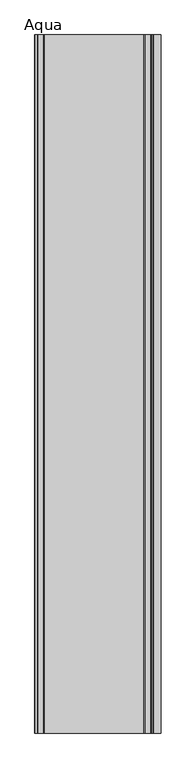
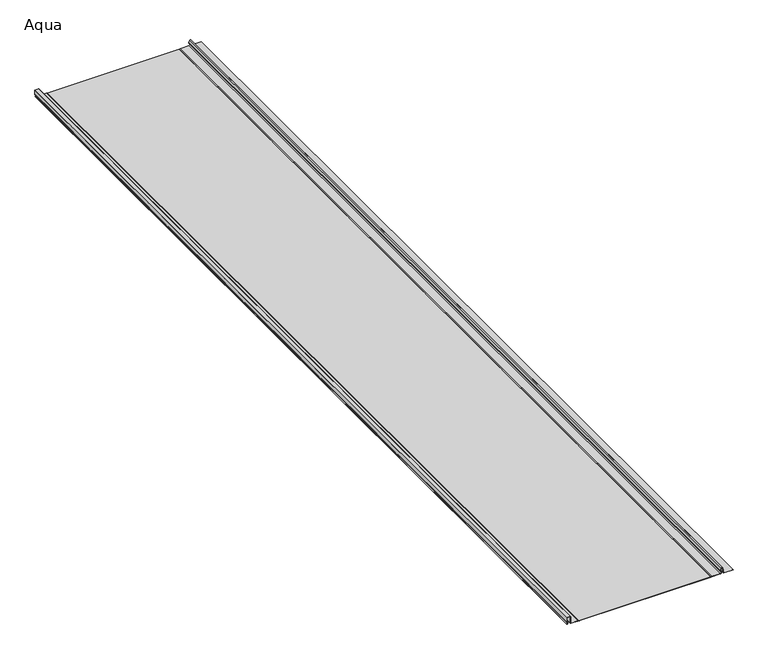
"""IFC4 building model written with IfcOpenShell, lengths in millimetres: proxy geometry, AQUAPLAST - Panel Dachowy i Elewacyjny Aqua : Aqua."""

from ifc_helpers import new_model, si_unit, point, frame, frame_2d, origin, origin_with_axes, place, context, project, spatial, polyline, circle_curve, trimmed, segment, composite_curve, outline, extrude, source, transform, mapped, element, save


def aqua_579f6fc6(model_context):
    return source(origin(), model_context, "Body", "SweptSolid", [
        extrude(outline(composite_curve([segment(polyline([(0.8, 270.9), (0.8, 240.520912)]), True, "CONTINUOUS"), segment(trimmed(circle_curve(frame_2d((1.4640676, 240.520912)), 0.6640676), [point((0.8, 240.520912))], [point((1.3501315, 239.8666916))], True, "CARTESIAN"), True, "CONTINUOUS"), segment(polyline([(1.3501315, 239.8666916), (18.7653554, 236.8337349)]), True, "CONTINUOUS"), segment(trimmed(circle_curve(frame_2d((18.1818617, 234.1906389)), 2.7067363), [point((18.7653554, 236.8337349))], [point((19.5352298, 231.8465366))], False, "CARTESIAN"), True, "CONTINUOUS"), segment(polyline([(19.5352298, 231.8465366), (12.1941629, 228.8862764)]), True, "CONTINUOUS"), segment(trimmed(circle_curve(frame_2d((11.2676679, 231.1838657)), 2.4773594), [point((12.1941629, 228.8862764))], [point((9.0024093, 230.1809133))], False, "CARTESIAN"), True, "CONTINUOUS"), segment(trimmed(circle_curve(frame_2d((5.4667311, 228.6154775)), 3.8667311), [point((9.0024093, 230.1809133))], [point((1.6, 228.6154775))], True, "CARTESIAN"), True, "CONTINUOUS"), segment(polyline([(1.6, 228.6154775), (1.6, 201.7000503), (0.8, 198.2000503), (0.0, 198.2000503), (0.8, 201.7000503), (0.8, 228.4563021)]), True, "CONTINUOUS"), segment(trimmed(circle_curve(frame_2d((5.5014361, 228.4563021)), 4.7014361), [point((0.8, 228.4563021))], [point((9.7513874, 230.4666293))], False, "CARTESIAN"), True, "CONTINUOUS"), segment(trimmed(circle_curve(frame_2d((11.2676679, 231.1838657)), 1.6773594), [point((9.7513874, 230.4666293))], [point((11.8934079, 229.6275932))], True, "CARTESIAN"), True, "CONTINUOUS"), segment(polyline([(11.8934079, 229.6275932), (19.1352298, 232.5393569)]), True, "CONTINUOUS"), segment(trimmed(circle_curve(frame_2d((18.1818617, 234.1906389)), 1.9067363), [point((19.1352298, 232.5393569))], [point((18.4803326, 236.0738697))], True, "CARTESIAN"), True, "CONTINUOUS"), segment(polyline([(18.4803326, 236.0738697), (0.6241817, 238.9038691)]), True, "CONTINUOUS"), segment(trimmed(circle_curve(frame_2d((0.7400208, 239.6347673)), 0.7400208), [point((0.6241817, 238.9038691))], [point((0.0, 239.6347673))], False, "CARTESIAN"), True, "CONTINUOUS"), segment(polyline([(0.0, 239.6347673), (0.0, 270.9), (0.8, 270.9)]), True, "CONTINUOUS")], self_intersect=False)), frame((0.0, 0.0, 0.0), z_axis=(0.0, 1.0, 0.0), x_axis=(0.0, 0.0, 1.0)), (0.0, 0.0, 1.0), 3013.0),
        extrude(outline(composite_curve([segment(polyline([(1.6, -237.5), (1.6, -260.6)]), True, "CONTINUOUS"), segment(trimmed(circle_curve(frame_2d((2.1, -260.6)), 0.5), [point((1.6, -260.6))], [point((2.1, -261.1))], True, "CARTESIAN"), True, "CONTINUOUS"), segment(polyline([(2.1, -261.1), (24.5, -261.1)]), True, "CONTINUOUS"), segment(trimmed(circle_curve(frame_2d((24.5, -261.6)), 0.5), [point((24.5, -261.1))], [point((25.0, -261.6))], False, "CARTESIAN"), True, "CONTINUOUS"), segment(polyline([(25.0, -261.6), (25.0, -273.6)]), True, "CONTINUOUS"), segment(trimmed(circle_curve(frame_2d((24.5, -273.6)), 0.5), [point((25.0, -273.6))], [point((24.5, -274.1))], False, "CARTESIAN"), True, "CONTINUOUS"), segment(polyline([(24.5, -274.1), (8.8039223, -274.1)]), True, "CONTINUOUS"), segment(trimmed(circle_curve(frame_2d((8.8039223, -273.4250457)), 0.6749543), [point((8.8039223, -274.1))], [point((8.1289934, -273.4191923))], False, "CARTESIAN"), True, "CONTINUOUS"), segment(trimmed(circle_curve(frame_2d((5.3847863, -273.4191923)), 2.7442071), [point((8.1289934, -273.4191923))], [point((2.6405793, -273.4191923))], True, "CARTESIAN"), True, "CONTINUOUS"), segment(polyline([(2.6405793, -273.4191923), (1.8403383, -273.4191923)]), True, "CONTINUOUS"), segment(trimmed(circle_curve(frame_2d((5.4137846, -273.4191923)), 3.5734462), [point((1.8403383, -273.4191923))], [point((8.9478642, -272.8902321))], False, "CARTESIAN"), True, "CONTINUOUS"), segment(trimmed(circle_curve(frame_2d((9.7850119, -272.4539484)), 0.9440125), [point((8.9478642, -272.8902321))], [point((9.7850119, -273.397961))], True, "CARTESIAN"), True, "CONTINUOUS"), segment(polyline([(9.7850119, -273.397961), (23.6993591, -273.397961)]), True, "CONTINUOUS"), segment(trimmed(circle_curve(frame_2d((23.6993591, -272.8966773)), 0.5012837), [point((23.6993591, -273.397961))], [point((24.2006428, -272.8966773))], True, "CARTESIAN"), True, "CONTINUOUS"), segment(polyline([(24.2006428, -272.8966773), (24.2006428, -262.4001579)]), True, "CONTINUOUS"), segment(trimmed(circle_curve(frame_2d((23.7003195, -262.4001579)), 0.5003233), [point((24.2006428, -262.4001579))], [point((23.7003195, -261.8998346))], True, "CARTESIAN"), True, "CONTINUOUS"), segment(polyline([(23.7003195, -261.8998346), (1.2999699, -261.8998346)]), True, "CONTINUOUS"), segment(trimmed(circle_curve(frame_2d((1.2999699, -261.3999248)), 0.4999098), [point((1.2999699, -261.8998346))], [point((0.8000601, -261.3999248))], False, "CARTESIAN"), True, "CONTINUOUS"), segment(polyline([(0.8000601, -261.3999248), (0.8000601, -237.5), (0.0, -234.0), (0.8, -234.0), (1.6, -237.5)]), True, "CONTINUOUS")], self_intersect=False)), frame((0.0, 0.0, 0.0), z_axis=(0.0, 1.0, 0.0), x_axis=(0.0, 0.0, 1.0)), (0.0, 0.0, 1.0), 3013.0),
        extrude(outline(polyline([(-234.0, 3013.0), (198.2000503, 3013.0), (198.2000503, 0.0), (-234.0, 0.0), (-234.0, 3013.0)])), origin_with_axes(), (0.0, 0.0, 1.0), 0.8),
    ])


if __name__ == "__main__":
    model = new_model("IFC4")
    model_context = context("Model", 3, world=origin())
    ifc_project = project(units=[si_unit("LENGTHUNIT", "METRE", prefix="MILLI")], contexts=[model_context])
    site = spatial("IfcSite", under=ifc_project)
    building = spatial("IfcBuilding", under=site)
    placement = place(None, origin())
    aqua_shape = aqua_579f6fc6(model_context)
    element("IfcBuildingElementProxy", 1, Name="AQUAPLAST - Panel Dachowy i Elewacyjny Aqua : Aqua", ObjectType="AQUAPLAST - Panel Dachowy i Elewacyjny Aqua : Aqua", at=placement, inside=building, context=model_context, shape_type="MappedRepresentation", body=[
        mapped(aqua_shape, transform((0.0, 0.0, 0.0), x_axis=(1.0, 0.0, 0.0), y_axis=(0.0, 1.0, 0.0), z_axis=(0.0, 0.0, 1.0))),
    ])
    save(model, "model.ifc")
